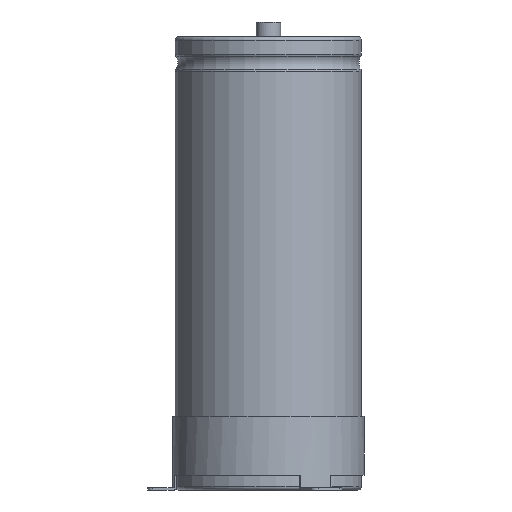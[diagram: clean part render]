
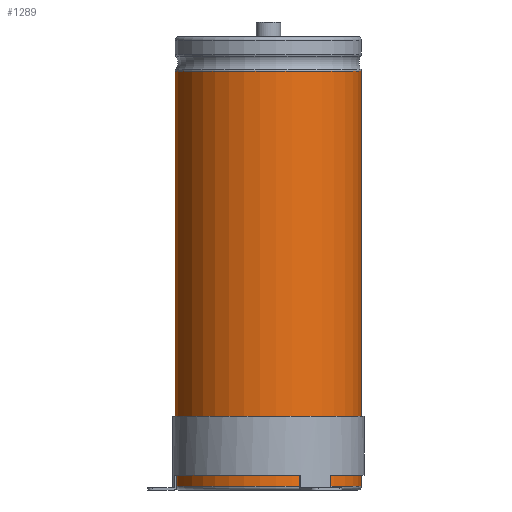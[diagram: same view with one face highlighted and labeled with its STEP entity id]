
A CAD part, front view. The second image highlights one B-rep face of the part: STEP entity #1289.
In plain terms, the highlighted cylindrical face has radius 38.1 mm (diameter 76.2 mm), a partial arc.
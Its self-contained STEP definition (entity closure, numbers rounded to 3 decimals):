
#233=LINE('',#6601,#447);
#234=LINE('',#6605,#448);
#447=VECTOR('',#5224,1.);
#448=VECTOR('',#5227,1.);
#695=FACE_OUTER_BOUND('',#1741,.T.);
#1289=ADVANCED_FACE('',(#695),#1519,.T.);
#1519=CYLINDRICAL_SURFACE('',#4585,38.1);
#1741=EDGE_LOOP('',(#2147,#2148,#2149,#2150));
#2147=ORIENTED_EDGE('',*,*,#3702,.T.);
#2148=ORIENTED_EDGE('',*,*,#3703,.T.);
#2149=ORIENTED_EDGE('',*,*,#3704,.F.);
#2150=ORIENTED_EDGE('',*,*,#3705,.F.);
#3274=VERTEX_POINT('',#6594);
#3276=VERTEX_POINT('',#6598);
#3277=VERTEX_POINT('',#6602);
#3278=VERTEX_POINT('',#6604);
#3702=EDGE_CURVE('',#3274,#3276,#4267,.T.);
#3703=EDGE_CURVE('',#3276,#3277,#233,.T.);
#3704=EDGE_CURVE('',#3278,#3277,#4268,.T.);
#3705=EDGE_CURVE('',#3274,#3278,#234,.T.);
#4267=CIRCLE('',#4582,38.1);
#4268=CIRCLE('',#4584,38.1);
#4582=AXIS2_PLACEMENT_3D('',#6599,#5220,#5221);
#4584=AXIS2_PLACEMENT_3D('',#6603,#5225,#5226);
#4585=AXIS2_PLACEMENT_3D('',#6606,#5228,#5229);
#5220=DIRECTION('',(0.,0.,-1.));
#5221=DIRECTION('',(0.,1.,0.));
#5224=DIRECTION('',(0.,0.,-1.));
#5225=DIRECTION('',(0.,0.,-1.));
#5226=DIRECTION('',(0.,1.,0.));
#5227=DIRECTION('',(0.,0.,-1.));
#5228=DIRECTION('',(0.,0.,-1.));
#5229=DIRECTION('',(0.,1.,0.));
#6594=CARTESIAN_POINT('',(3.983,37.891,170.9));
#6598=CARTESIAN_POINT('',(-3.983,37.891,170.9));
#6599=CARTESIAN_POINT('',(0.,0.,170.9));
#6601=CARTESIAN_POINT('',(-3.983,37.891,170.9));
#6602=CARTESIAN_POINT('',(-3.983,37.891,1.5));
#6603=CARTESIAN_POINT('',(0.,0.,1.5));
#6604=CARTESIAN_POINT('',(3.983,37.891,1.5));
#6605=CARTESIAN_POINT('',(3.983,37.891,170.9));
#6606=CARTESIAN_POINT('',(0.,0.,0.));
